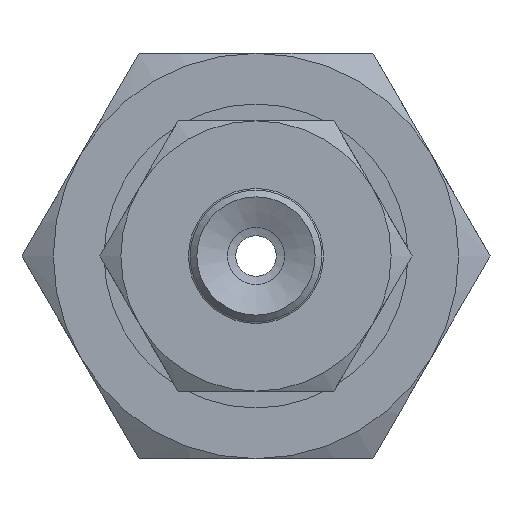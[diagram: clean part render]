
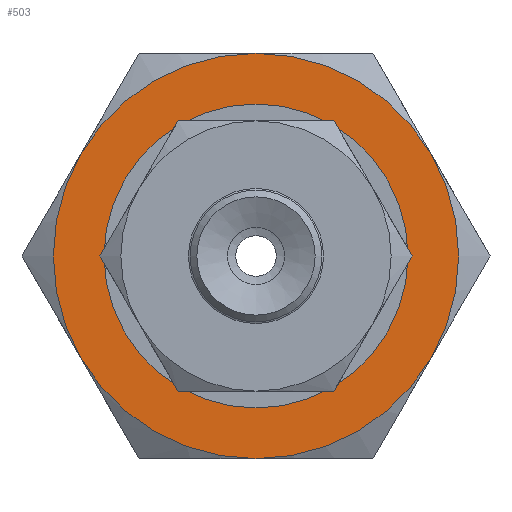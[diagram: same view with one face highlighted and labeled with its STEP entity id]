
A CAD part, front view. The second image highlights one B-rep face of the part: STEP entity #503.
In plain terms, the highlighted planar face has unit normal (0, -1, 0) as drawn and (-1, 0, 0) by its records, which use the part's own axes.
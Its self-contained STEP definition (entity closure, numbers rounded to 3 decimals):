
#503=ADVANCED_FACE('',(#684,#685),#686,.F.);
#684=FACE_BOUND('',#973,.T.);
#685=FACE_OUTER_BOUND('',#974,.T.);
#686=PLANE('',#975);
#973=EDGE_LOOP('',(#1523));
#974=EDGE_LOOP('',(#1524,#1525,#1526,#1527,#1528,#1529));
#975=AXIS2_PLACEMENT_3D('',#1530,#1531,#1532);
#1523=ORIENTED_EDGE('',*,*,#2044,.T.);
#1524=ORIENTED_EDGE('',*,*,#2045,.F.);
#1525=ORIENTED_EDGE('',*,*,#2046,.F.);
#1526=ORIENTED_EDGE('',*,*,#2047,.F.);
#1527=ORIENTED_EDGE('',*,*,#2048,.F.);
#1528=ORIENTED_EDGE('',*,*,#2049,.F.);
#1529=ORIENTED_EDGE('',*,*,#2042,.F.);
#1530=CARTESIAN_POINT('',(0.,0.0,0.0));
#1531=DIRECTION('',(1.0,0.0,0.0));
#1532=DIRECTION('',(0.0,1.0,0.0));
#2042=EDGE_CURVE('',#2315,#2318,#2319,.T.);
#2044=EDGE_CURVE('',#2321,#2321,#2322,.T.);
#2045=EDGE_CURVE('',#2306,#2315,#2323,.T.);
#2046=EDGE_CURVE('',#2324,#2306,#2325,.T.);
#2047=EDGE_CURVE('',#2326,#2324,#2327,.T.);
#2048=EDGE_CURVE('',#2328,#2326,#2329,.T.);
#2049=EDGE_CURVE('',#2318,#2328,#2330,.T.);
#2306=VERTEX_POINT('',#2770);
#2315=VERTEX_POINT('',#2820);
#2318=VERTEX_POINT('',#2843);
#2319=CIRCLE('',#2844,6.0);
#2321=VERTEX_POINT('',#2856);
#2322=CIRCLE('',#2857,4.0);
#2323=CIRCLE('',#2858,6.0);
#2324=VERTEX_POINT('',#2859);
#2325=CIRCLE('',#2860,6.0);
#2326=VERTEX_POINT('',#2861);
#2327=CIRCLE('',#2862,6.0);
#2328=VERTEX_POINT('',#2863);
#2329=CIRCLE('',#2864,6.0);
#2330=CIRCLE('',#2865,6.0);
#2770=CARTESIAN_POINT('',(0.,5.196,-3.0));
#2820=CARTESIAN_POINT('',(0.,5.196,3.0));
#2843=CARTESIAN_POINT('',(0.,0.0,6.0));
#2844=AXIS2_PLACEMENT_3D('',#3340,#3341,#3342);
#2856=CARTESIAN_POINT('',(0.,0.0,-4.0));
#2857=AXIS2_PLACEMENT_3D('',#3343,#3344,#3345);
#2858=AXIS2_PLACEMENT_3D('',#3346,#3347,#3348);
#2859=CARTESIAN_POINT('',(0.,0.0,-6.0));
#2860=AXIS2_PLACEMENT_3D('',#3349,#3350,#3351);
#2861=CARTESIAN_POINT('',(0.,-5.196,-3.0));
#2862=AXIS2_PLACEMENT_3D('',#3352,#3353,#3354);
#2863=CARTESIAN_POINT('',(0.,-5.196,3.0));
#2864=AXIS2_PLACEMENT_3D('',#3355,#3356,#3357);
#2865=AXIS2_PLACEMENT_3D('',#3358,#3359,#3360);
#3340=CARTESIAN_POINT('',(0.,0.0,0.0));
#3341=DIRECTION('',(1.0,0.0,0.0));
#3342=DIRECTION('',(0.0,0.0,-1.0));
#3343=CARTESIAN_POINT('',(0.,0.0,0.0));
#3344=DIRECTION('',(1.0,0.0,0.0));
#3345=DIRECTION('',(0.0,0.0,-1.0));
#3346=CARTESIAN_POINT('',(0.,0.0,0.0));
#3347=DIRECTION('',(1.0,0.0,0.0));
#3348=DIRECTION('',(0.0,0.0,-1.0));
#3349=CARTESIAN_POINT('',(0.,0.0,0.0));
#3350=DIRECTION('',(1.0,0.0,0.0));
#3351=DIRECTION('',(0.0,0.0,-1.0));
#3352=CARTESIAN_POINT('',(0.,0.0,0.0));
#3353=DIRECTION('',(1.0,0.0,0.0));
#3354=DIRECTION('',(0.0,0.0,-1.0));
#3355=CARTESIAN_POINT('',(0.,0.0,0.0));
#3356=DIRECTION('',(1.0,0.0,0.0));
#3357=DIRECTION('',(0.0,0.0,-1.0));
#3358=CARTESIAN_POINT('',(0.,0.0,0.0));
#3359=DIRECTION('',(1.0,0.0,0.0));
#3360=DIRECTION('',(0.0,0.0,-1.0));
